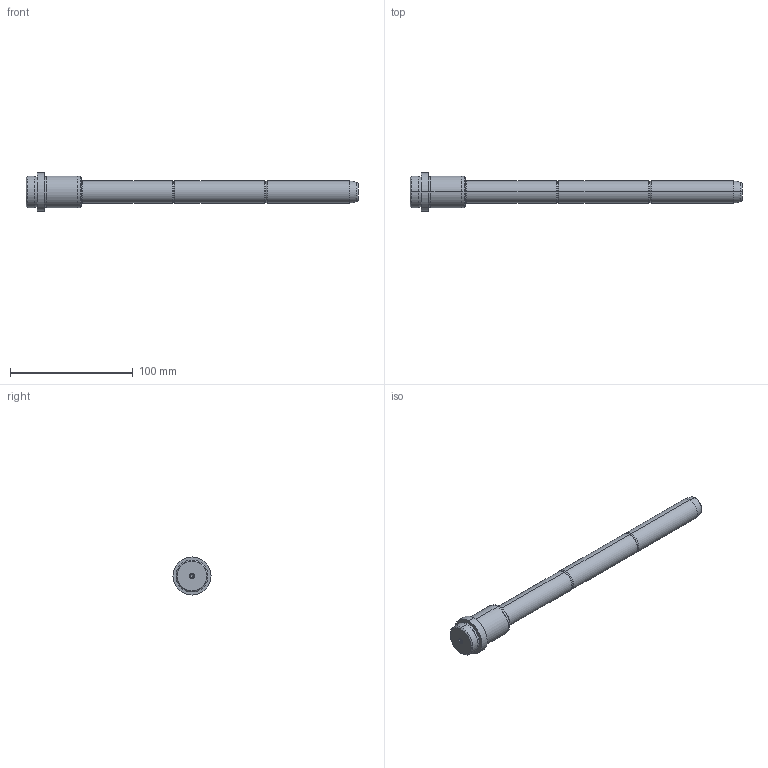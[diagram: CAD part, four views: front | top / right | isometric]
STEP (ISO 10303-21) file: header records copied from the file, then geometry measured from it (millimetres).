
FILE_DESCRIPTION( ( 'STEP AP203' ), '1' );
FILE_NAME( 'C:/Projects/D03 - 18x36x225.step', '2003-01-02T23:44:27', ( ' ' ), ( ' ' ), 'XStep 1.0', ' ', ' ' );
FILE_SCHEMA( ( 'CONFIG_CONTROL_DESIGN' ) );
Length unit declared in the file: metre
Products named in the file (1): 1
Bounding box: 270 x 31 x 31 mm (x, y, z)
Volume: 81934.3 mm3; surface area: 18005.5 mm2
Topology: 1 solids, 1 shells, 56 faces, 112 edges, 64 vertices
Faces by surface type: revolution 36, bspline 20
Entity records: 1691 total; most frequent: CARTESIAN_POINT 513, ORIENTED_EDGE 220, DIRECTION 218, EDGE_CURVE 110, AXIS2_PLACEMENT_3D 73, CIRCLE 72, EDGE_LOOP 64, VERTEX_POINT 64
